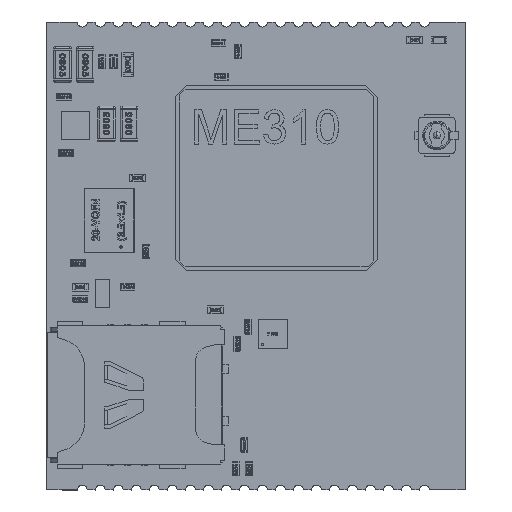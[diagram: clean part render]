
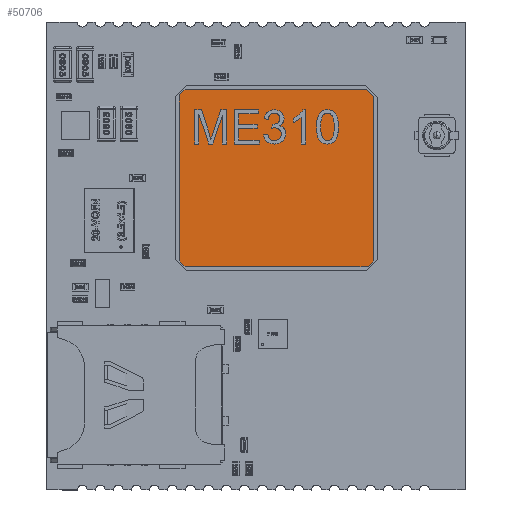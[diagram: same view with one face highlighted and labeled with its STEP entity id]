
A CAD part, top view. The second image highlights one B-rep face of the part: STEP entity #50706.
In plain terms, the highlighted planar face has unit normal (0, 0, 1).
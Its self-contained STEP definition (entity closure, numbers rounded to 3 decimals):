
#50449 = VERTEX_POINT('',#50450);
#50450 = CARTESIAN_POINT('',(-6.85,-5.85,1.8));
#50456 = EDGE_CURVE('',#50449,#50457,#50459,.T.);
#50457 = VERTEX_POINT('',#50458);
#50458 = CARTESIAN_POINT('',(-6.45,-6.25,1.8));
#50459 = LINE('',#50460,#50461);
#50460 = CARTESIAN_POINT('',(-6.85,-5.85,1.8));
#50461 = VECTOR('',#50462,1.);
#50462 = DIRECTION('',(0.707,-0.707,0.));
#50487 = EDGE_CURVE('',#50457,#50488,#50490,.T.);
#50488 = VERTEX_POINT('',#50489);
#50489 = CARTESIAN_POINT('',(6.45,-6.25,1.8));
#50490 = LINE('',#50491,#50492);
#50491 = CARTESIAN_POINT('',(-6.45,-6.25,1.8));
#50492 = VECTOR('',#50493,1.);
#50493 = DIRECTION('',(1.,0.,0.));
#50518 = EDGE_CURVE('',#50488,#50519,#50521,.T.);
#50519 = VERTEX_POINT('',#50520);
#50520 = CARTESIAN_POINT('',(6.85,-5.85,1.8));
#50521 = LINE('',#50522,#50523);
#50522 = CARTESIAN_POINT('',(6.45,-6.25,1.8));
#50523 = VECTOR('',#50524,1.);
#50524 = DIRECTION('',(0.707,0.707,0.));
#50549 = EDGE_CURVE('',#50519,#50550,#50552,.T.);
#50550 = VERTEX_POINT('',#50551);
#50551 = CARTESIAN_POINT('',(6.85,5.75,1.8));
#50552 = LINE('',#50553,#50554);
#50553 = CARTESIAN_POINT('',(6.85,-5.85,1.8));
#50554 = VECTOR('',#50555,1.);
#50555 = DIRECTION('',(0.,1.,0.));
#50580 = EDGE_CURVE('',#50550,#50581,#50583,.T.);
#50581 = VERTEX_POINT('',#50582);
#50582 = CARTESIAN_POINT('',(6.35,6.25,1.8));
#50583 = LINE('',#50584,#50585);
#50584 = CARTESIAN_POINT('',(6.85,5.75,1.8));
#50585 = VECTOR('',#50586,1.);
#50586 = DIRECTION('',(-0.707,0.707,0.));
#50611 = EDGE_CURVE('',#50581,#50612,#50614,.T.);
#50612 = VERTEX_POINT('',#50613);
#50613 = CARTESIAN_POINT('',(-6.45,6.25,1.8));
#50614 = LINE('',#50615,#50616);
#50615 = CARTESIAN_POINT('',(6.35,6.25,1.8));
#50616 = VECTOR('',#50617,1.);
#50617 = DIRECTION('',(-1.,0.,0.));
#50642 = EDGE_CURVE('',#50612,#50643,#50645,.T.);
#50643 = VERTEX_POINT('',#50644);
#50644 = CARTESIAN_POINT('',(-6.85,5.85,1.8));
#50645 = LINE('',#50646,#50647);
#50646 = CARTESIAN_POINT('',(-6.45,6.25,1.8));
#50647 = VECTOR('',#50648,1.);
#50648 = DIRECTION('',(-0.707,-0.707,0.));
#50673 = EDGE_CURVE('',#50643,#50449,#50674,.T.);
#50674 = LINE('',#50675,#50676);
#50675 = CARTESIAN_POINT('',(-6.85,5.85,1.8));
#50676 = VECTOR('',#50677,1.);
#50677 = DIRECTION('',(0.,-1.,0.));
#50706 = ADVANCED_FACE('',(#50707),#50717,.F.);
#50707 = FACE_BOUND('',#50708,.T.);
#50708 = EDGE_LOOP('',(#50709,#50710,#50711,#50712,#50713,#50714,#50715,
    #50716));
#50709 = ORIENTED_EDGE('',*,*,#50456,.T.);
#50710 = ORIENTED_EDGE('',*,*,#50487,.T.);
#50711 = ORIENTED_EDGE('',*,*,#50518,.T.);
#50712 = ORIENTED_EDGE('',*,*,#50549,.T.);
#50713 = ORIENTED_EDGE('',*,*,#50580,.T.);
#50714 = ORIENTED_EDGE('',*,*,#50611,.T.);
#50715 = ORIENTED_EDGE('',*,*,#50642,.T.);
#50716 = ORIENTED_EDGE('',*,*,#50673,.T.);
#50717 = PLANE('',#50718);
#50718 = AXIS2_PLACEMENT_3D('',#50719,#50720,#50721);
#50719 = CARTESIAN_POINT('',(-6.85,-5.85,1.8));
#50720 = DIRECTION('',(0.,0.,-1.));
#50721 = DIRECTION('',(-1.,0.,0.));
